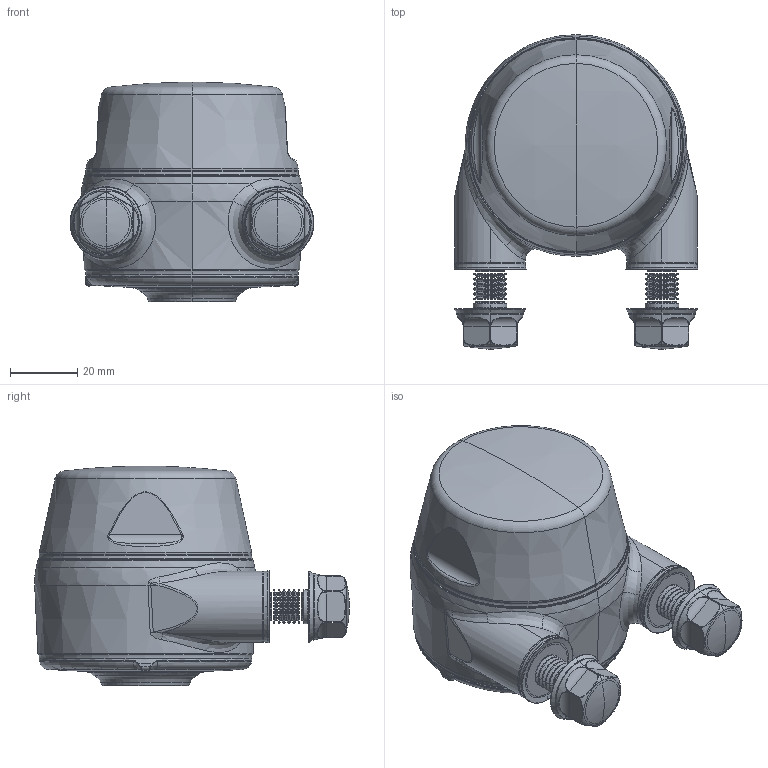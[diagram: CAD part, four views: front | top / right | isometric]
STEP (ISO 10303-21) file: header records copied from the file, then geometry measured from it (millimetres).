
FILE_DESCRIPTION (( 'STEP AP203' ), '1' );
FILE_NAME ('XBTBC52(White)-SSB2500(Front)-CL(White)-OS(White)-BXHM1016_Shell.step', '2020-08-04T06:28:20', ( '' ), ( '' ), 'SwSTEP 2.0', 'SolidWorks 2019', '' );
FILE_SCHEMA (( 'CONFIG_CONTROL_DESIGN' ));
Length unit declared in the file: millimetre
Products named in the file (1): XBTBC52(White)-SSB2500(Front)-CL(White)-OS(White)-BXHM1016_Shell
Bounding box: 72.4 x 93.39 x 65.25 mm (x, y, z)
Surface area: 32243.7 mm2 (no closed solid volume)
Topology: 0 solids, 28 shells, 505 faces, 1467 edges, 956 vertices
Faces by surface type: torus 150, cone 107, cylinder 106, bspline 97, plane 35, sphere 10
Entity records: 24470 total; most frequent: CARTESIAN_POINT 11772, DIRECTION 2747, ORIENTED_EDGE 2492, EDGE_CURVE 1467, AXIS2_PLACEMENT_3D 1233, VERTEX_POINT 956, CIRCLE 824, EDGE_LOOP 527
